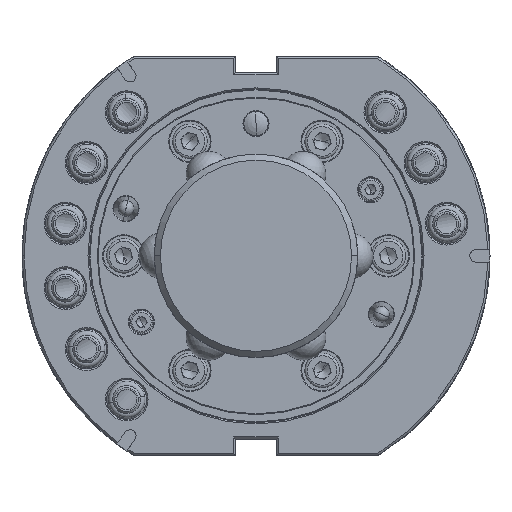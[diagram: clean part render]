
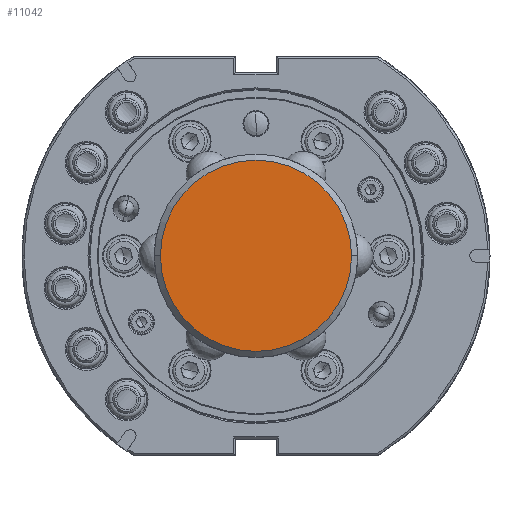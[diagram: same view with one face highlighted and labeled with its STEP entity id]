
A CAD part, top view. The second image highlights one B-rep face of the part: STEP entity #11042.
In plain terms, the highlighted planar face has unit normal (0, 0, 1).
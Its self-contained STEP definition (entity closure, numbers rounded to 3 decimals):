
#5253 = AXIS2_PLACEMENT_3D ( 'NONE', #8673, #8660, #8582 ) ;
#6043 = VERTEX_POINT ( 'NONE', #40248 ) ;
#7252 = CARTESIAN_POINT ( 'NONE',  ( -23.5, 0., 0. ) ) ;
#8582 = DIRECTION ( 'NONE',  ( -1., 0., 0. ) ) ;
#8660 = DIRECTION ( 'NONE',  ( 0., 0., 1. ) ) ;
#8673 = CARTESIAN_POINT ( 'NONE',  ( 0., 0., 0. ) ) ;
#11042 = ADVANCED_FACE ( 'NONE', ( #51282 ), #38355, .F. ) ;
#12870 = EDGE_CURVE ( 'NONE', #6043, #33845, #68635, .T. ) ;
#15329 = AXIS2_PLACEMENT_3D ( 'NONE', #42797, #37715, #37007 ) ;
#21299 = DIRECTION ( 'NONE',  ( 0., 0., 1. ) ) ;
#24674 = CIRCLE ( 'NONE', #61626, 23.5 ) ;
#33845 = VERTEX_POINT ( 'NONE', #7252 ) ;
#37007 = DIRECTION ( 'NONE',  ( -1., 0., 0. ) ) ;
#37715 = DIRECTION ( 'NONE',  ( 0., 0., -1. ) ) ;
#38355 = PLANE ( 'NONE',  #15329 ) ;
#40248 = CARTESIAN_POINT ( 'NONE',  ( 23.5, 0., 0. ) ) ;
#42567 = EDGE_LOOP ( 'NONE', ( #61131, #49155 ) ) ;
#42797 = CARTESIAN_POINT ( 'NONE',  ( 0., 0., 0. ) ) ;
#44335 = EDGE_CURVE ( 'NONE', #33845, #6043, #24674, .T. ) ;
#49155 = ORIENTED_EDGE ( 'NONE', *, *, #12870, .T. ) ;
#51282 = FACE_OUTER_BOUND ( 'NONE', #42567, .T. ) ;
#55511 = CARTESIAN_POINT ( 'NONE',  ( 0., 0., 0. ) ) ;
#61131 = ORIENTED_EDGE ( 'NONE', *, *, #44335, .T. ) ;
#61165 = DIRECTION ( 'NONE',  ( -1., 0., 0. ) ) ;
#61626 = AXIS2_PLACEMENT_3D ( 'NONE', #55511, #21299, #61165 ) ;
#68635 = CIRCLE ( 'NONE', #5253, 23.5 ) ;
